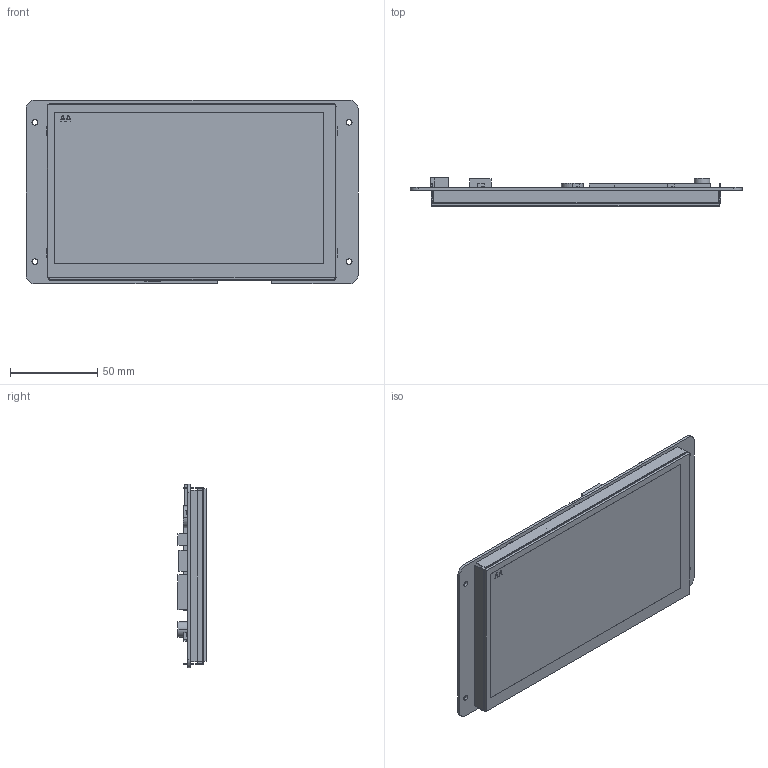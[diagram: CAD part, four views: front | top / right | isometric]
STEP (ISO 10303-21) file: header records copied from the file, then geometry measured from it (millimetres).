
FILE_DESCRIPTION((''),'2;1');
FILE_NAME('DMG10600S070-03W_ASM','2022-12-29T',('Administrator'),(''),'PRO/ENGINEER BY PARAMETRIC TECHNOLOGY CORPORATION, 2014320','PRO/ENGINEER BY PARAMETRIC TECHNOLOGY CORPORATION, 2014320','');
FILE_SCHEMA(('CONFIG_CONTROL_DESIGN','SHAPE_APPEARANCE_LAYERS_GROUPS'));
Length unit declared in the file: millimetre
Products named in the file (5): TK070011; LI10600T070IA7001; PCB221229; YF07003; DMG10600S070-03W_ASM
Assembly tree (4 placements, depth 2):
  DMG10600S070-03W_ASM
    TK070011
    LI10600T070IA7001
    PCB221229
    YF07003
Bounding box: 190.5 x 16.1 x 105.41 mm (x, y, z)
Volume: 113484.5 mm3; surface area: 123824.1 mm2
Topology: 4 solids, 4 shells, 356 faces, 961 edges, 630 vertices
Faces by surface type: plane 259, cylinder 97
Entity records: 12877 total; most frequent: CARTESIAN_POINT 1956, ORIENTED_EDGE 1922, DIRECTION 1885, EDGE_CURVE 961, VECTOR 767, LINE 767, VERTEX_POINT 630, AXIS2_PLACEMENT_3D 559
